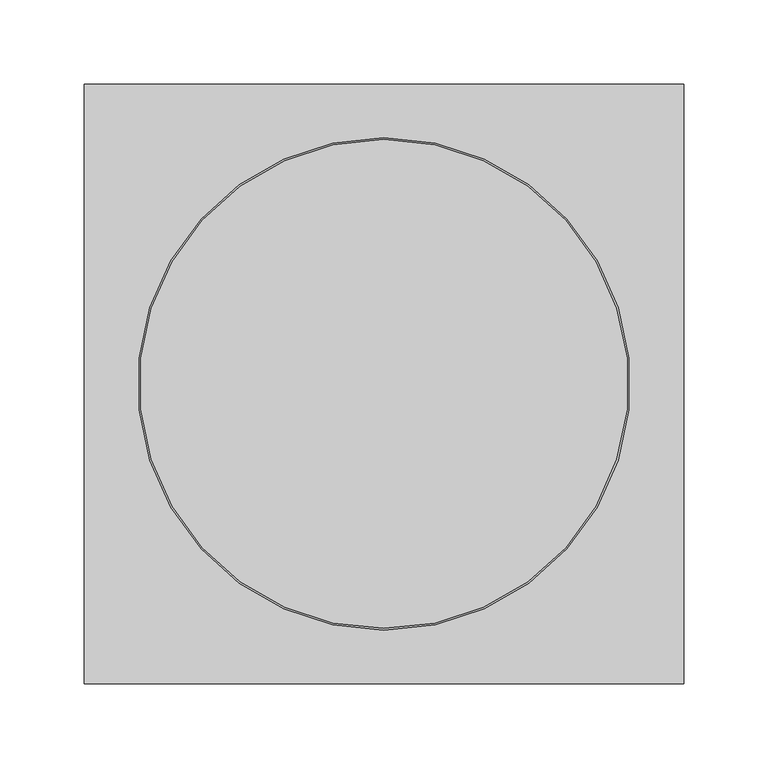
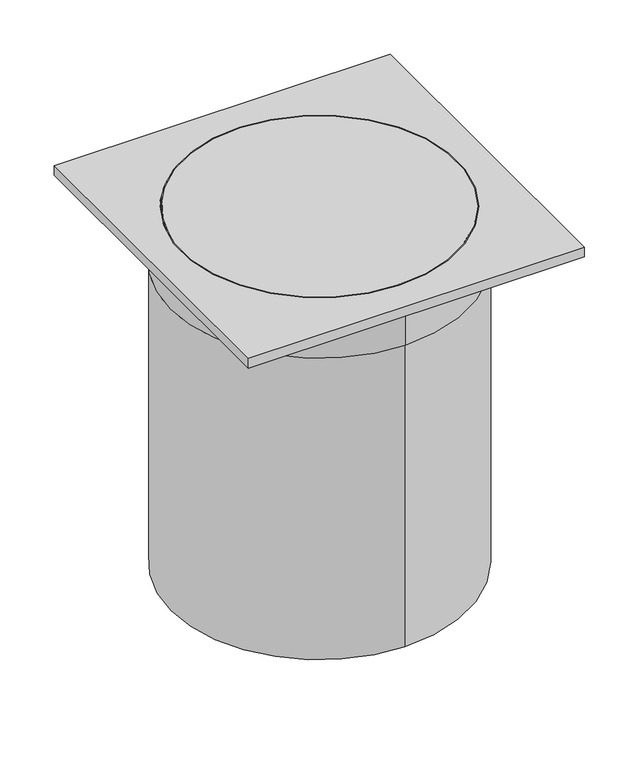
"""IFC4 building model written with IfcOpenShell, lengths in millimetres: valve geometry, Pipelife - Studnia PRO - Teleskop 315 z kratą : 1.5t/315/400 A15 T05DK."""

from ifc_helpers import new_model, si_unit, point, frame, origin, origin_with_axes, origin_2d, place, context, project, spatial, polyline, circle_curve, trimmed, segment, composite_curve, outline, extrude, source, transform, mapped, element, save
from ifc_brep_helpers import plane_surface, revolved_surface, advanced_brep


def valve_207184b5(model_context):
    return source(origin(), model_context, "Body", "SolidModel", [
        advanced_brep(
        [(0.0, 146.5, 389.0), (0.0, -146.5, 389.0), (0.0, 146.5, 399.0), (0.0, -146.5, 399.0), (-178.5, -178.5, 399.0), (178.5, -178.5, 399.0), (178.5, 178.5, 399.0), (-178.5, 178.5, 399.0), (-178.5, -178.5, 388.0), (-178.5, 178.5, 388.0), (178.5, 178.5, 388.0), (178.5, -178.5, 388.0)],
        [
            (0, 1, circle_curve(frame((0.0, 0.0, 389.0), z_axis=(0.0, 0.0, 1.0), x_axis=(0.0, -1.0, 0.0)), 146.5)),
            (1, 0, circle_curve(frame((0.0, 0.0, 389.0), z_axis=(0.0, 0.0, 1.0), x_axis=(0.0, -1.0, 0.0)), 146.5)),
            (0, 2),
            (2, 3, circle_curve(frame((0.0, 0.0, 399.0), z_axis=(0.0, 0.0, 1.0), x_axis=(0.0, -1.0, 0.0)), 146.5)),
            (3, 1),
            (3, 2, circle_curve(frame((0.0, 0.0, 399.0), z_axis=(0.0, 0.0, 1.0), x_axis=(0.0, -1.0, 0.0)), 146.5)),
            (4, 5),
            (5, 6),
            (6, 7),
            (7, 4),
            (8, 9),
            (9, 10),
            (10, 11),
            (11, 8),
            (4, 8),
            (11, 5),
            (10, 6),
            (9, 7),
        ],
        [
            plane_surface(frame((0.0, 0.0, 389.0), z_axis=(0.0, 0.0, 1.0), x_axis=(0.0, -1.0, 0.0))),
            revolved_surface(polyline([(0.0, -146.5, 399.0), (0.0, -146.5, 389.0)]), (0.0, 0.0, 399.0), (0.0, 0.0, 1.0)),
            plane_surface(frame((0.0, 0.0, 399.0), z_axis=(0.0, 0.0, 1.0), x_axis=(0.0, -1.0, 0.0))),
            plane_surface(frame((0.0, 0.0, 388.0), z_axis=(0.0, 0.0, -1.0), x_axis=(0.0, -1.0, 0.0))),
            plane_surface(frame((-178.5, -178.5, 399.0), z_axis=(0.0, -1.0, 0.0), x_axis=(0.0, 0.0, -1.0))),
            plane_surface(frame((178.5, -178.5, 399.0), z_axis=(1.0, 0.0, 0.0), x_axis=(0.0, 0.0, -1.0))),
            plane_surface(frame((178.5, 178.5, 399.0), z_axis=(0.0, 1.0, 0.0), x_axis=(0.0, 0.0, -1.0))),
            plane_surface(frame((-178.5, 178.5, 399.0), z_axis=(-1.0, 0.0, 0.0), x_axis=(0.0, 0.0, -1.0))),
        ],
        [
            (0, [[1, 2]]),
            (1, [[-1, 3, 4, 5]]),
            (1, [[-2, -5, 6, -3]]),
            (2, [[7, 8, 9, 10], [-4, -6]]),
            (3, [[11, 12, 13, 14]]),
            (4, [[-7, 15, -14, 16]]),
            (5, [[-8, -16, -13, 17]]),
            (6, [[-9, -17, -12, 18]]),
            (7, [[-10, -18, -11, -15]]),
        ],
    ),
        extrude(outline(composite_curve([segment(trimmed(circle_curve(origin_2d(), 145.5), [point((0.0, 145.5))], [point((0.0, -145.5))], False, "CARTESIAN"), True, "CONTINUOUS"), segment(trimmed(circle_curve(origin_2d(), 145.5), [point((0.0, -145.5))], [point((0.0, 145.5))], False, "CARTESIAN"), True, "CONTINUOUS")], self_intersect=False)), frame((0.0, 0.0, 389.0), z_axis=(0.0, 0.0, 1.0), x_axis=(1.0, 0.0, 0.0)), (0.0, 0.0, 1.0), 10.0),
        extrude(outline(composite_curve([segment(trimmed(circle_curve(origin_2d(), 158.0), [point((0.0, 158.0))], [point((0.0, -158.0))], False, "CARTESIAN"), True, "CONTINUOUS"), segment(trimmed(circle_curve(origin_2d(), 158.0), [point((0.0, -158.0))], [point((0.0, 158.0))], False, "CARTESIAN"), True, "CONTINUOUS")], self_intersect=False), holes=[composite_curve([segment(trimmed(circle_curve(origin_2d(), 151.0), [point((0.0, 151.0))], [point((0.0, -151.0))], True, "CARTESIAN"), True, "CONTINUOUS"), segment(trimmed(circle_curve(origin_2d(), 151.0), [point((0.0, -151.0))], [point((0.0, 151.0))], True, "CARTESIAN"), True, "CONTINUOUS")], self_intersect=False)]), frame((0.0, 0.0, 339.0), z_axis=(0.0, 0.0, 1.0), x_axis=(1.0, 0.0, 0.0)), (0.0, 0.0, 1.0), 49.0),
        extrude(outline(composite_curve([segment(trimmed(circle_curve(origin_2d(), 157.5), [point((0.0, 157.5))], [point((0.0, -157.5))], False, "CARTESIAN"), True, "CONTINUOUS"), segment(trimmed(circle_curve(origin_2d(), 157.5), [point((0.0, -157.5))], [point((0.0, 157.5))], False, "CARTESIAN"), True, "CONTINUOUS")], self_intersect=False), holes=[composite_curve([segment(trimmed(circle_curve(origin_2d(), 151.0), [point((0.0, 151.0))], [point((0.0, -151.0))], True, "CARTESIAN"), True, "CONTINUOUS"), segment(trimmed(circle_curve(origin_2d(), 151.0), [point((0.0, -151.0))], [point((0.0, 151.0))], True, "CARTESIAN"), True, "CONTINUOUS")], self_intersect=False)]), origin_with_axes(), (0.0, 0.0, 1.0), 339.0),
    ])


if __name__ == "__main__":
    model = new_model("IFC4")
    model_context = context("Model", 3, world=origin())
    ifc_project = project(units=[si_unit("LENGTHUNIT", "METRE", prefix="MILLI")], contexts=[model_context])
    site = spatial("IfcSite", under=ifc_project)
    building = spatial("IfcBuilding", under=site)
    placement = place(None, origin())
    valve_shape = valve_207184b5(model_context)
    element("IfcValve", 1, ObjectType="Pipelife - Studnia PRO - Teleskop 315 z kratą : 1.5t/315/400 A15 T05DK", at=placement, inside=building, context=model_context, shape_type="MappedRepresentation", body=[
        mapped(valve_shape, transform((0.0, 0.0, 0.0), x_axis=(1.0, 0.0, 0.0), y_axis=(0.0, 1.0, 0.0), z_axis=(0.0, 0.0, 1.0))),
    ])
    save(model, "model.ifc")
